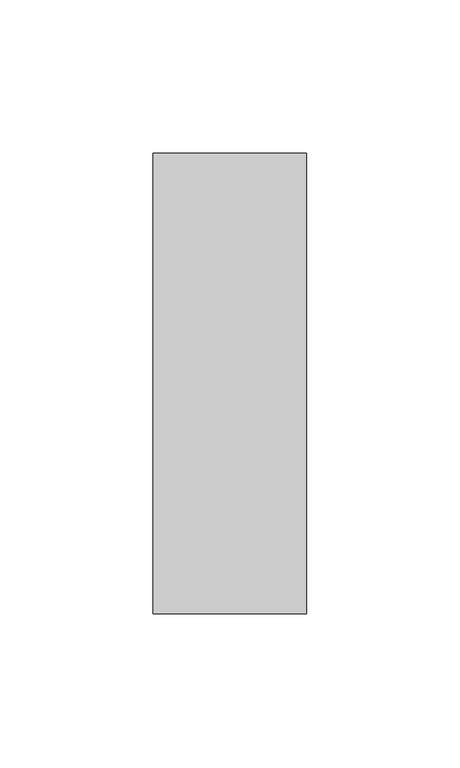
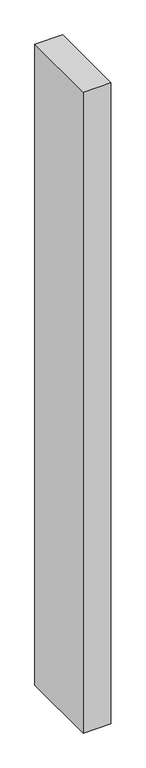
"""IFC4 building model written with IfcOpenShell, lengths in millimetres: member geometry, Прямоугольный импост : 50 x 150 мм."""

from ifc_helpers import new_model, si_unit, frame, origin, place, context, project, spatial, polyline, outline, extrude, source, transform, mapped, element, save


def member_fb4383ad(model_context):
    return source(origin(), model_context, "Body", "SweptSolid", [
        extrude(outline(polyline([(25.0, 75.0), (25.0, -75.0), (-25.0, -75.0), (-25.0, 75.0), (25.0, 75.0)])), frame((0.0, 0.0, -1216.7424005), z_axis=(0.0, 0.0, 1.0), x_axis=(1.0, 0.0, 0.0)), (0.0, 0.0, 1.0), 1216.7424005),
    ])


if __name__ == "__main__":
    model = new_model("IFC4")
    model_context = context("Model", 3, world=origin())
    ifc_project = project(units=[si_unit("LENGTHUNIT", "METRE", prefix="MILLI")], contexts=[model_context])
    site = spatial("IfcSite", under=ifc_project)
    building = spatial("IfcBuilding", under=site)
    placement = place(None, origin())
    member_shape = member_fb4383ad(model_context)
    element("IfcMember", 1, ObjectType="Прямоугольный импост : 50 x 150 мм", at=placement, inside=building, context=model_context, shape_type="MappedRepresentation", body=[
        mapped(member_shape, transform((0.0, 0.0, 0.0), x_axis=(1.0, 0.0, 0.0), y_axis=(0.0, 1.0, 0.0), z_axis=(0.0, 0.0, 1.0))),
    ])
    save(model, "model.ifc")
